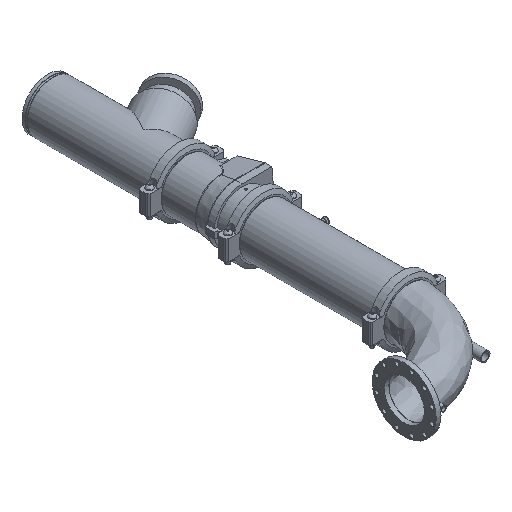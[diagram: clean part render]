
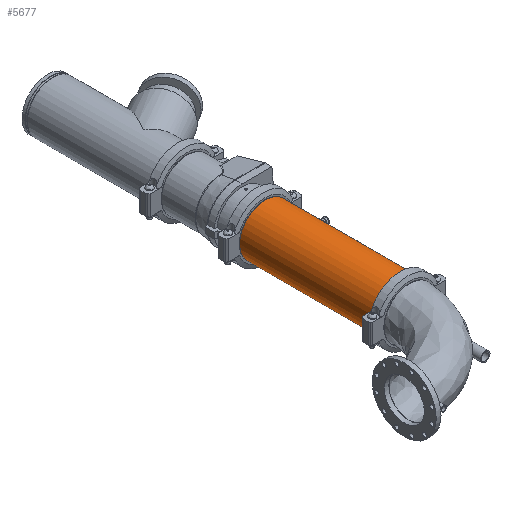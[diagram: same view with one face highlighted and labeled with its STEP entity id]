
A CAD part, isometric view. The second image highlights one B-rep face of the part: STEP entity #5677.
In plain terms, the highlighted cylindrical face has radius 161.925 mm (diameter 323.85 mm), a full revolution.
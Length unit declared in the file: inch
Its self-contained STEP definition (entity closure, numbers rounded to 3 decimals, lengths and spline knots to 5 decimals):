
#157=LINE('',#8642,#558);
#558=VECTOR('',#6885,6.375);
#959=CYLINDRICAL_SURFACE('',#6184,6.375);
#1159=FACE_OUTER_BOUND('',#1478,.T.);
#1478=EDGE_LOOP('',(#3579,#3580,#3581,#3582,#3583,#3584));
#1885=CIRCLE('',#6182,6.375);
#1886=CIRCLE('',#6183,6.375);
#1887=CIRCLE('',#6185,6.375);
#1888=CIRCLE('',#6186,6.375);
#2221=VERTEX_POINT('',#8633);
#2222=VERTEX_POINT('',#8634);
#2223=VERTEX_POINT('',#8638);
#2224=VERTEX_POINT('',#8639);
#2772=EDGE_CURVE('',#2221,#2222,#1885,.T.);
#2773=EDGE_CURVE('',#2222,#2221,#1886,.T.);
#2774=EDGE_CURVE('',#2223,#2224,#1887,.T.);
#2775=EDGE_CURVE('',#2224,#2223,#1888,.T.);
#2776=EDGE_CURVE('',#2224,#2222,#157,.T.);
#3579=ORIENTED_EDGE('',*,*,#2774,.F.);
#3580=ORIENTED_EDGE('',*,*,#2775,.F.);
#3581=ORIENTED_EDGE('',*,*,#2776,.T.);
#3582=ORIENTED_EDGE('',*,*,#2773,.T.);
#3583=ORIENTED_EDGE('',*,*,#2772,.T.);
#3584=ORIENTED_EDGE('',*,*,#2776,.F.);
#5677=ADVANCED_FACE('',(#1159),#959,.T.);
#6182=AXIS2_PLACEMENT_3D('',#8635,#6875,#6876);
#6183=AXIS2_PLACEMENT_3D('',#8636,#6877,#6878);
#6184=AXIS2_PLACEMENT_3D('',#8637,#6879,#6880);
#6185=AXIS2_PLACEMENT_3D('',#8640,#6881,#6882);
#6186=AXIS2_PLACEMENT_3D('',#8641,#6883,#6884);
#6875=DIRECTION('center_axis',(1.,0.,0.));
#6876=DIRECTION('ref_axis',(0.,0.,-1.));
#6877=DIRECTION('center_axis',(1.,0.,0.));
#6878=DIRECTION('ref_axis',(0.,0.,-1.));
#6879=DIRECTION('center_axis',(1.,0.,0.));
#6880=DIRECTION('ref_axis',(0.,1.,0.));
#6881=DIRECTION('center_axis',(1.,0.,0.));
#6882=DIRECTION('ref_axis',(0.,0.,-1.));
#6883=DIRECTION('center_axis',(1.,0.,0.));
#6884=DIRECTION('ref_axis',(0.,0.,-1.));
#6885=DIRECTION('',(-1.,0.,0.));
#8633=CARTESIAN_POINT('',(-16.8085,6.375,0.));
#8634=CARTESIAN_POINT('',(-16.8085,-6.375,0.));
#8635=CARTESIAN_POINT('Origin',(-16.8085,0.,0.));
#8636=CARTESIAN_POINT('Origin',(-16.8085,0.,0.));
#8637=CARTESIAN_POINT('Origin',(0.,0.,0.));
#8638=CARTESIAN_POINT('',(16.8085,6.375,0.));
#8639=CARTESIAN_POINT('',(16.8085,-6.375,0.));
#8640=CARTESIAN_POINT('Origin',(16.8085,0.,0.));
#8641=CARTESIAN_POINT('Origin',(16.8085,0.,0.));
#8642=CARTESIAN_POINT('',(0.,-6.375,0.));
